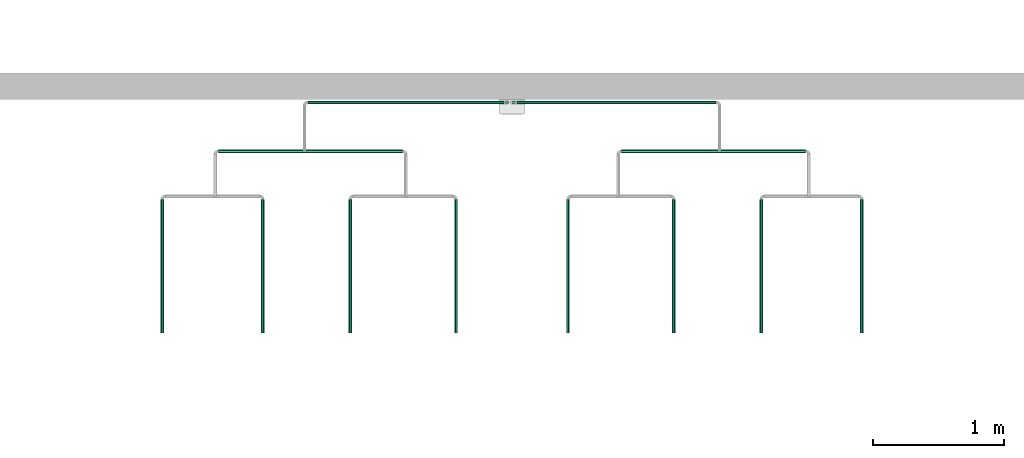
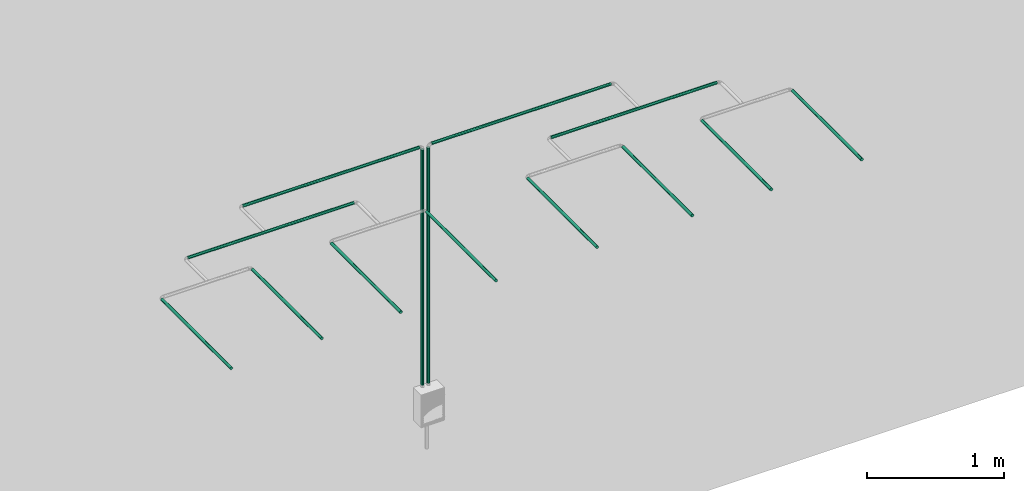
# One storey, part 3 of 197: 14 flow segments.
"""IFC2X3 building model written with IfcOpenShell, lengths in metres."""

import ifcopenshell
import ifcopenshell.guid

model = None  # the IFC model being written
_history = None  # IfcOwnerHistory: only IFC2X3 demands one
_inside = {}  # id of a spatial element -> (the spatial element, [elements in it])
_under = {}  # id of a project, library or spatial element -> (it, [spatial elements below it])
_declared = {}  # id of a project -> (the project, [libraries it declares])
_typed = {}  # id of a type object -> (the type object, [elements of that type])
_made_of = {}  # id of a material, layer set ... -> (it, [elements and type objects made of it])


def new_model(schema):
    """Start an empty IFC model of exactly this schema.

    Asked for "IFC4X3", IfcOpenShell would pick the latest addendum, in which some entities
    have other attributes; the version numbers below select the first issue.
    IFC2X3 requires an IfcOwnerHistory on every rooted entity: one is made here for all.
    """
    global model, _history
    if schema == "IFC4X3":
        model = ifcopenshell.file(schema_version=(4, 3, 0, 0))
    else:
        model = ifcopenshell.file(schema=schema)
    _inside.clear()
    _under.clear()
    _declared.clear()
    _typed.clear()
    _made_of.clear()
    _history = None
    if model.schema == "IFC2X3":
        org = make("IfcOrganization", Name="unknown")
        user = make(
            "IfcPersonAndOrganization",
            ThePerson=make("IfcPerson", FamilyName="unknown"),
            TheOrganization=org,
        )
        app = make(
            "IfcApplication",
            ApplicationDeveloper=org,
            Version="unknown",
            ApplicationFullName="unknown",
            ApplicationIdentifier="unknown",
        )
        _history = make(
            "IfcOwnerHistory",
            OwningUser=user,
            OwningApplication=app,
            ChangeAction="ADDED",
            CreationDate=0,
        )
    return model


def make(cls, **values):
    """One entity of the class cls with the attributes given. An attribute that is None is left unset."""
    return model.create_entity(
        cls, **{name: value for name, value in values.items() if value is not None}
    )


def entity(cls, *values):
    """Any entity or typed value of the class cls, its attributes in the order of the schema. None: left unset."""
    e = model.create_entity(cls)
    for i, value in enumerate(values):
        if value is not None:
            e[i] = value
    return e


def rooted(cls, **values):
    """An entity with a GlobalId (a new one), such as an element, a storey or a relation."""
    return make(cls, GlobalId=ifcopenshell.guid.new(), OwnerHistory=_history, **values)


def si_unit(unit_type, name, prefix=None):
    """IfcSIUnit, for example si_unit("LENGTHUNIT", "METRE", prefix="MILLI")."""
    return make("IfcSIUnit", UnitType=unit_type, Prefix=prefix, Name=name)


def converted_unit(unit_type, name, factor, base, dimensions=None, offset=None):
    """IfcConversionBasedUnit, such as the inch: factor (a typed value) times the base unit."""
    return make(
        "IfcConversionBasedUnit"
        if offset is None
        else "IfcConversionBasedUnitWithOffset",
        ConversionOffset=offset,
        Dimensions=None
        if dimensions is None
        else entity("IfcDimensionalExponents", *dimensions),
        UnitType=unit_type,
        Name=name,
        ConversionFactor=make(
            "IfcMeasureWithUnit", ValueComponent=factor, UnitComponent=base
        ),
    )


def assignment(units):
    """IfcUnitAssignment: the units of a project."""
    return None if units is None else make("IfcUnitAssignment", Units=units)


def point(xyz):
    """IfcCartesianPoint."""
    return None if xyz is None else make("IfcCartesianPoint", Coordinates=xyz)


def direction(xyz):
    """IfcDirection."""
    return None if xyz is None else make("IfcDirection", DirectionRatios=xyz)


def frame(location, z_axis=None, x_axis=None):
    """IfcAxis2Placement3D, a coordinate frame: its origin and axes. An axis left out is left unset."""
    return make(
        "IfcAxis2Placement3D",
        Location=point(location),
        Axis=direction(z_axis),
        RefDirection=direction(x_axis),
    )


def frame_2d(location, x_axis=None):
    """IfcAxis2Placement2D, a coordinate frame in the plane: its origin and x axis."""
    return make(
        "IfcAxis2Placement2D", Location=point(location), RefDirection=direction(x_axis)
    )


def origin():
    """The frame at (0, 0, 0) with its axes left unset."""
    return frame((0.0, 0.0, 0.0))


def origin_2d_with_axis():
    """The frame at (0, 0) in the plane with the x axis (1, 0) written out."""
    return frame_2d((0.0, 0.0), x_axis=(1.0, 0.0))


def place(relative_to, where):
    """IfcLocalPlacement: puts the frame where relative to a parent placement (None: the world)."""
    return make(
        "IfcLocalPlacement", PlacementRelTo=relative_to, RelativePlacement=where
    )


def context(
    kind, dimensions, precision=None, world=None, true_north=None, identifier=None
):
    """IfcGeometricRepresentationContext, for example the 3D "Model" context."""
    return make(
        "IfcGeometricRepresentationContext",
        ContextIdentifier=identifier,
        ContextType=kind,
        CoordinateSpaceDimension=dimensions,
        Precision=precision,
        WorldCoordinateSystem=world,
        TrueNorth=true_north,
    )


def subcontext(parent, identifier, kind, view, scale=None):
    """IfcGeometricRepresentationSubContext, for example "Body" below "Model"."""
    return make(
        "IfcGeometricRepresentationSubContext",
        ContextIdentifier=identifier,
        ContextType=kind,
        ParentContext=parent,
        TargetScale=scale,
        TargetView=view,
    )


def project(units=None, contexts=None):
    """IfcProject with its units and contexts."""
    return rooted(
        "IfcProject",
        Name="project",
        RepresentationContexts=contexts,
        UnitsInContext=assignment(units),
    )


def spatial(cls, under=None, at=None, **own):
    """A site, building, storey or space (cls), placed at a placement, below another one or the project."""
    s = rooted(cls, ObjectPlacement=at, **own)
    if under is not None:
        _under.setdefault(under.id(), (under, []))[1].append(s)
    return s


def profile(cls, at=None, kind="AREA", **sizes):
    """A parametric profile (cls). Its sizes go by their IFC names, for example OverallWidth=200.0."""
    return make(cls, ProfileType=kind, Position=at, **sizes)


def circle(**sizes):
    """IfcCircleProfileDef."""
    return profile("IfcCircleProfileDef", **sizes)


def extrude(swept, where, along, depth):
    """IfcExtrudedAreaSolid: the profile swept, set in the frame where, extruded along a direction by depth."""
    return make(
        "IfcExtrudedAreaSolid",
        SweptArea=swept,
        Position=where,
        ExtrudedDirection=direction(along),
        Depth=depth,
    )


def shape(context_of_items, identifier, shape_type, items):
    """IfcShapeRepresentation: the items that make up one representation, for example the "Body"."""
    return make(
        "IfcShapeRepresentation",
        ContextOfItems=context_of_items,
        RepresentationIdentifier=identifier,
        RepresentationType=shape_type,
        Items=items,
    )


def made_of(thing, what):
    """Note that an element or type object is made of a material, layer set ...; save() writes the relation."""
    if what is not None:
        _made_of.setdefault(what.id(), (what, []))[1].append(thing)
    return thing


def type_object(cls, material=None, **own):
    """A type object (cls), such as IfcWallType, which elements share."""
    return made_of(rooted(cls, **own), material)


def element(
    cls,
    number,
    at=None,
    inside=None,
    cuts=None,
    type_object=None,
    material=None,
    context=None,
    identifier="Body",
    shape_type=None,
    held_by="IfcProductDefinitionShape",
    body=None,
    shapes=None,
    **own,
):
    """One element of the class cls, such as IfcWall. Its Tag is "e" and its number.

    at: its placement. inside: the storey or other place that contains it. cuts: it is an
    opening in that element (IfcRelVoidsElement). A single representation is given by context,
    identifier, shape_type and body (its items); several are given by shapes. held_by: the class
    of the entity that holds the representations. save() writes the other relations.
    """
    e = rooted(cls, Tag="e%d" % number, ObjectPlacement=at, **own)
    if body is not None:
        shapes = [shape(context, identifier, shape_type, body)]
    if shapes is not None:
        e.Representation = make(held_by, Representations=shapes)
    if inside is not None:
        _inside.setdefault(inside.id(), (inside, []))[1].append(e)
    if cuts is not None:
        rooted(
            "IfcRelVoidsElement", RelatingBuildingElement=cuts, RelatedOpeningElement=e
        )
    if type_object is not None:
        _typed.setdefault(type_object.id(), (type_object, []))[1].append(e)
    return made_of(e, material)


def aggregate(whole, parts):
    """IfcRelAggregates: a whole, such as a stair, and the parts it consists of."""
    return rooted("IfcRelAggregates", RelatingObject=whole, RelatedObjects=parts)


def save(model, path):
    """Write the relations noted so far, then the file.

    IfcRelAggregates (storeys below a building ...), IfcRelContainedInSpatialStructure (elements
    in a storey), IfcRelDefinesByType, IfcRelAssociatesMaterial and IfcRelDeclares: one each for
    every whole, place, type object, material and project.
    """
    for whole, parts in _under.values():
        aggregate(whole, parts)
    for where, things in _inside.values():
        rooted(
            "IfcRelContainedInSpatialStructure",
            RelatedElements=things,
            RelatingStructure=where,
        )
    for kind, things in _typed.values():
        rooted("IfcRelDefinesByType", RelatedObjects=things, RelatingType=kind)
    for what, things in _made_of.values():
        rooted("IfcRelAssociatesMaterial", RelatedObjects=things, RelatingMaterial=what)
    for by, libraries in _declared.values():
        rooted("IfcRelDeclares", RelatingContext=by, RelatedDefinitions=libraries)
    model.write(path)


model = new_model("IFC2X3")

# Units and contexts
model_context = context("Model", 3, precision=1e-05, world=origin(), true_north=direction((6.123031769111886e-17, 1.0)))
body_context = subcontext(model_context, "Body", "Model", "MODEL_VIEW")
ifc_project = project(units=[si_unit("LENGTHUNIT", "METRE"), converted_unit("PLANEANGLEUNIT", "DEGREE", entity("IfcPlaneAngleMeasure", 0.017453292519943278), si_unit("PLANEANGLEUNIT", "RADIAN"), dimensions=[0, 0, 0, 0, 0, 0, 0]), si_unit("AREAUNIT", "SQUARE_METRE")], contexts=[model_context])

# Site, building, storey
site_placement = place(None, origin())
site = spatial("IfcSite", under=ifc_project, at=site_placement, Name="Default", CompositionType="ELEMENT")
building_placement = place(site_placement, origin())
building = spatial("IfcBuilding", under=site, at=building_placement, CompositionType="ELEMENT")
storey_placement = place(building_placement, origin())
storey = spatial("IfcBuildingStorey", under=building, at=storey_placement, Name="Niveau 0", CompositionType="ELEMENT", Elevation=0.0)

# Flow segments
duct_segment_type = type_object("IfcDuctSegmentType", Name="Gaine circulaire:Tubulure-Aspiration", PredefinedType="NOTDEFINED")
flow_segment_1_placement = place(storey_placement, origin())
element("IfcFlowSegment", 1, at=flow_segment_1_placement, inside=storey, type_object=duct_segment_type, Name="Gaine circulaire:Tubulure-Aspiration", ObjectType="Gaine circulaire:Tubulure-Aspiration", context=body_context, shape_type="SweptSolid", body=[
    extrude(circle(Radius=0.0125, at=origin_2d_with_axis()), frame((-504.885595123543, -24.660579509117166, 1.811999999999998)), (0.0, 0.0, 1.0), 2.099999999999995),
])
flow_segment_2_placement = place(storey_placement, origin())
element("IfcFlowSegment", 2, at=flow_segment_2_placement, inside=storey, type_object=duct_segment_type, Name="Gaine circulaire:Tubulure-Aspiration", ObjectType="Gaine circulaire:Tubulure-Aspiration", context=body_context, shape_type="SweptSolid", body=[
    extrude(circle(Radius=0.0125, at=frame_2d((-4.331468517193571e-15, 7.038636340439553e-15), x_axis=(1.0, 0.0))), frame((-506.40259512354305, -24.660579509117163, 3.937), z_axis=(1.0, 0.0, 0.0), x_axis=(0.0, 1.0, 0.0)), (0.0, 0.0, 1.0), 1.4920000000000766),
])
flow_segment_3_placement = place(storey_placement, origin())
element("IfcFlowSegment", 3, at=flow_segment_3_placement, inside=storey, type_object=duct_segment_type, Name="Gaine circulaire:Tubulure-Aspiration", ObjectType="Gaine circulaire:Tubulure-Aspiration", context=body_context, shape_type="SweptSolid", body=[
    extrude(circle(Radius=0.0125, at=frame_2d((0.0, -5.414335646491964e-16), x_axis=(1.0, 0.0))), frame((-506.7461616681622, -26.413579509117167, 3.936999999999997), z_axis=(0.0, 1.0, 0.0), x_axis=(-1.0, 0.0, 0.0)), (0.0, 0.0, 1.0), 1.0140000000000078),
])
flow_segment_4_placement = place(storey_placement, origin())
element("IfcFlowSegment", 4, at=flow_segment_4_placement, inside=storey, type_object=duct_segment_type, Name="Gaine circulaire:Tubulure-Aspiration", ObjectType="Gaine circulaire:Tubulure-Aspiration", context=body_context, shape_type="SweptSolid", body=[
    extrude(circle(Radius=0.0125, at=frame_2d((0.0, -5.414335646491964e-16), x_axis=(1.0, 0.0))), frame((-507.5101616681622, -26.413579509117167, 3.936999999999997), z_axis=(0.0, 1.0, 0.0), x_axis=(-1.0, 0.0, 0.0)), (0.0, 0.0, 1.0), 1.014000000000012),
])
flow_segment_5_placement = place(storey_placement, origin())
element("IfcFlowSegment", 5, at=flow_segment_5_placement, inside=storey, type_object=duct_segment_type, Name="Gaine circulaire:Tubulure-Aspiration", ObjectType="Gaine circulaire:Tubulure-Aspiration", context=body_context, shape_type="SweptSolid", body=[
    extrude(circle(Radius=0.0125, at=frame_2d((0.0, -5.414335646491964e-16), x_axis=(1.0, 0.0))), frame((-505.2751616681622, -26.413579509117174, 3.936999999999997), z_axis=(0.0, 1.0, 0.0), x_axis=(-1.0, 0.0, 0.0)), (0.0, 0.0, 1.0), 1.0140000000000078),
])
flow_segment_6_placement = place(storey_placement, origin())
element("IfcFlowSegment", 6, at=flow_segment_6_placement, inside=storey, type_object=duct_segment_type, Name="Gaine circulaire:Tubulure-Aspiration", ObjectType="Gaine circulaire:Tubulure-Aspiration", context=body_context, shape_type="SweptSolid", body=[
    extrude(circle(Radius=0.0125, at=frame_2d((0.0, -5.414335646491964e-16), x_axis=(1.0, 0.0))), frame((-506.0791616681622, -26.413579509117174, 3.936999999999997), z_axis=(0.0, 1.0, 0.0), x_axis=(-1.0, 0.0, 0.0)), (0.0, 0.0, 1.0), 1.014000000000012),
])
flow_segment_7_placement = place(storey_placement, origin())
element("IfcFlowSegment", 7, at=flow_segment_7_placement, inside=storey, type_object=duct_segment_type, Name="Gaine circulaire:Tubulure-Aspiration", ObjectType="Gaine circulaire:Tubulure-Aspiration", context=body_context, shape_type="SweptSolid", body=[
    extrude(circle(Radius=0.0125, at=origin_2d_with_axis()), frame((-507.08212260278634, -25.03257950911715, 3.936999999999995), z_axis=(1.0, 0.0, 0.0), x_axis=(0.0, -1.0, 0.0)), (0.0, 0.0, 1.0), 1.400999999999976),
])
flow_segment_8_placement = place(storey_placement, origin())
element("IfcFlowSegment", 8, at=flow_segment_8_placement, inside=storey, type_object=duct_segment_type, Name="Gaine circulaire:Tubulure-Aspiration", ObjectType="Gaine circulaire:Tubulure-Aspiration", context=body_context, shape_type="SweptSolid", body=[
    extrude(circle(Radius=0.0125, at=origin_2d_with_axis()), frame((-504.835595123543, -24.660579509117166, 1.811999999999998)), (0.0, 0.0, 1.0), 2.1000000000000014),
])
flow_segment_9_placement = place(storey_placement, origin())
element("IfcFlowSegment", 9, at=flow_segment_9_placement, inside=storey, type_object=duct_segment_type, Name="Gaine circulaire:Tubulure-Aspiration", ObjectType="Gaine circulaire:Tubulure-Aspiration", context=body_context, shape_type="SweptSolid", body=[
    extrude(circle(Radius=0.0125, at=origin_2d_with_axis()), frame((-504.81059512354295, -24.660579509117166, 3.9369999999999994), z_axis=(1.0, 0.0, 0.0), x_axis=(0.0, -1.0, 0.0)), (0.0, 0.0, 1.0), 1.5160000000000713),
])
flow_segment_10_placement = place(storey_placement, origin())
element("IfcFlowSegment", 10, at=flow_segment_10_placement, inside=storey, type_object=duct_segment_type, Name="Gaine circulaire:Tubulure-Aspiration", ObjectType="Gaine circulaire:Tubulure-Aspiration", context=body_context, shape_type="SweptSolid", body=[
    extrude(circle(Radius=0.0125, at=frame_2d((0.0, -5.414335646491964e-16), x_axis=(1.0, 0.0))), frame((-502.9510285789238, -26.413579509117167, 3.936999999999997), z_axis=(0.0, 1.0, 0.0), x_axis=(-1.0, 0.0, 0.0)), (0.0, 0.0, 1.0), 1.0140000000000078),
])
flow_segment_11_placement = place(storey_placement, origin())
element("IfcFlowSegment", 11, at=flow_segment_11_placement, inside=storey, type_object=duct_segment_type, Name="Gaine circulaire:Tubulure-Aspiration", ObjectType="Gaine circulaire:Tubulure-Aspiration", context=body_context, shape_type="SweptSolid", body=[
    extrude(circle(Radius=0.0125, at=frame_2d((0.0, -5.414335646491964e-16), x_axis=(1.0, 0.0))), frame((-502.1870285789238, -26.413579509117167, 3.936999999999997), z_axis=(0.0, 1.0, 0.0), x_axis=(-1.0, 0.0, 0.0)), (0.0, 0.0, 1.0), 1.014000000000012),
])
flow_segment_12_placement = place(storey_placement, origin())
element("IfcFlowSegment", 12, at=flow_segment_12_placement, inside=storey, type_object=duct_segment_type, Name="Gaine circulaire:Tubulure-Aspiration", ObjectType="Gaine circulaire:Tubulure-Aspiration", context=body_context, shape_type="SweptSolid", body=[
    extrude(circle(Radius=0.0125, at=frame_2d((0.0, -5.414335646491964e-16), x_axis=(1.0, 0.0))), frame((-504.4220285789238, -26.413579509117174, 3.936999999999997), z_axis=(0.0, 1.0, 0.0), x_axis=(-1.0, 0.0, 0.0)), (0.0, 0.0, 1.0), 1.0140000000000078),
])
flow_segment_13_placement = place(storey_placement, origin())
element("IfcFlowSegment", 13, at=flow_segment_13_placement, inside=storey, type_object=duct_segment_type, Name="Gaine circulaire:Tubulure-Aspiration", ObjectType="Gaine circulaire:Tubulure-Aspiration", context=body_context, shape_type="SweptSolid", body=[
    extrude(circle(Radius=0.0125, at=frame_2d((0.0, -5.414335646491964e-16), x_axis=(1.0, 0.0))), frame((-503.61802857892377, -26.413579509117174, 3.936999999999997), z_axis=(0.0, 1.0, 0.0), x_axis=(-1.0, 0.0, 0.0)), (0.0, 0.0, 1.0), 1.014000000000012),
])
flow_segment_14_placement = place(storey_placement, origin())
element("IfcFlowSegment", 14, at=flow_segment_14_placement, inside=storey, type_object=duct_segment_type, Name="Gaine circulaire:Tubulure-Aspiration", ObjectType="Gaine circulaire:Tubulure-Aspiration", context=body_context, shape_type="SweptSolid", body=[
    extrude(circle(Radius=0.0125, at=frame_2d((8.662937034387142e-15, 0.0), x_axis=(1.0, 0.0))), frame((-504.0160676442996, -25.032579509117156, 3.936999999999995), z_axis=(1.0, 0.0, 0.0), x_axis=(0.0, 1.0, 0.0)), (0.0, 0.0, 1.0), 1.400999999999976),
])

save(model, "model.ifc")
